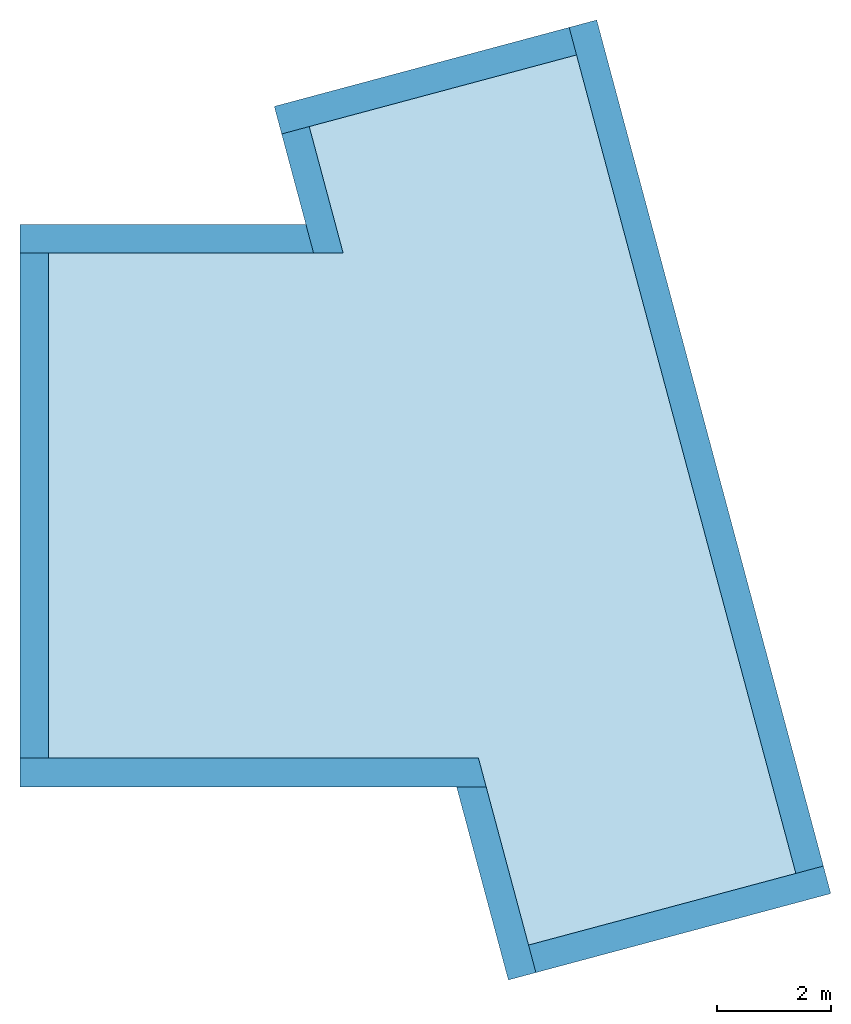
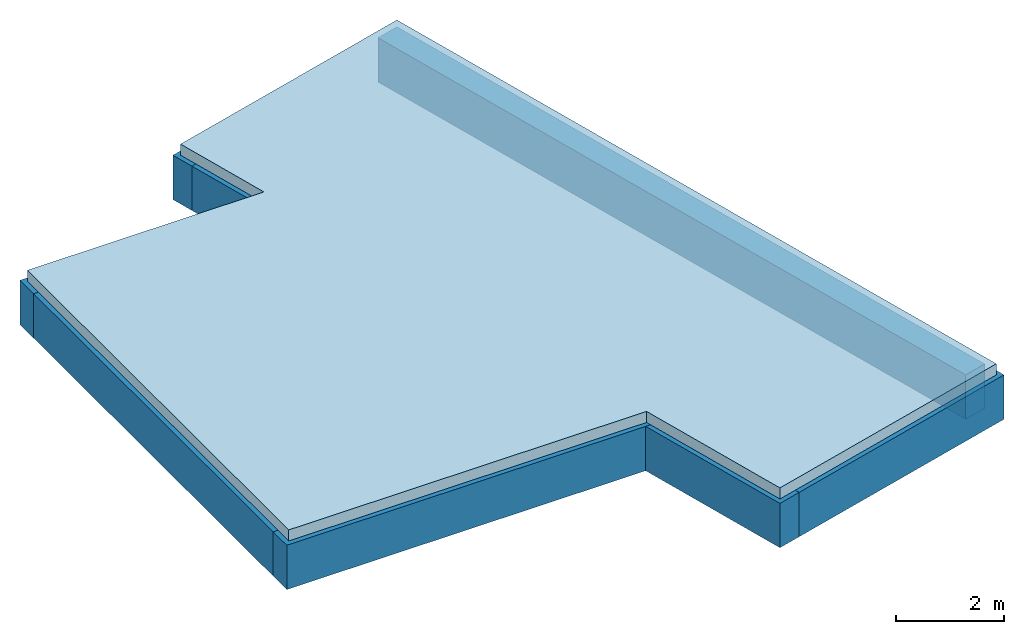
# One storey: 8 footings, 1 slab.
"""IFC4 building model written with IfcOpenShell, lengths in metres."""

from ifc_helpers import new_model, entity, si_unit, converted_unit, derived_unit, frame, frame_2d, origin, origin_with_axes, place, context, subcontext, project, spatial, polyline, rectangle, outline, extrude, faceted_brep, material, element, save


model = new_model("IFC4")

# Units and contexts
model_context = context("Model", 3, precision=1e-05, world=origin())
body_context = subcontext(model_context, "Body", "Model", "MODEL_VIEW")
ifc_project = project(units=[si_unit("LENGTHUNIT", "METRE"), si_unit("AREAUNIT", "SQUARE_METRE"), si_unit("VOLUMEUNIT", "CUBIC_METRE"), si_unit("MASSUNIT", "GRAM", prefix="KILO"), converted_unit("PLANEANGLEUNIT", "DEGREE", entity("IfcPlaneAngleMeasure", 0.0174532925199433), si_unit("PLANEANGLEUNIT", "RADIAN"), dimensions=[0, 0, 0, 0, 0, 0, 0]), derived_unit("THERMALTRANSMITTANCEUNIT", [(si_unit("POWERUNIT", "WATT"), 1), (si_unit("THERMODYNAMICTEMPERATUREUNIT", "KELVIN"), -1), (si_unit("LENGTHUNIT", "METRE"), -2)]), derived_unit("VOLUMETRICFLOWRATEUNIT", [(si_unit("LENGTHUNIT", "METRE"), 3), (converted_unit("TIMEUNIT", "hour", entity("IfcTimeMeasure", 3600.0), si_unit("TIMEUNIT", "SECOND"), dimensions=[0, 0, 1, 0, 0, 0, 0]), -1), (si_unit("LENGTHUNIT", "METRE"), -1)])], contexts=[model_context])

# Site, building, storey
site_placement = place(None, origin())
site = spatial("IfcSite", under=ifc_project, at=site_placement, Name="Liegenschaft", CompositionType="ELEMENT")
building_placement = place(site_placement, origin())
building = spatial("IfcBuilding", under=site, at=building_placement, Name="Gebäude", CompositionType="ELEMENT")
storey_placement = place(building_placement, origin())
storey = spatial("IfcBuildingStorey", under=building, at=storey_placement, Name="Geschoss 01", CompositionType="ELEMENT", Elevation=0.0)

# Footings
ifc_material_1 = material(Name="C12/15")
footing_1_placement = place(storey_placement, frame((178.473252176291, -6.95035461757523, -1.5), z_axis=(0.0, 0.0, 1.0), x_axis=(0.965925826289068, 0.25881904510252, 0.0)))
element("IfcFooting", 1, at=footing_1_placement, inside=storey, material=ifc_material_1, Name="SFU_01", PredefinedType="STRIP_FOOTING", context=body_context, shape_type="SweptSolid", body=[
    extrude(rectangle(XDim=0.499999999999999, YDim=1.0, at=frame_2d((0.25, 0.5), x_axis=(1.0, 0.0))), frame((0.0, 0.0, 0.0), z_axis=(1.0, 0.0, 0.0), x_axis=(0.0, 1.0, 0.0)), (0.0, 0.0, 1.0), 5.34999999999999),
])
ifc_material_2 = material(Name="C12/15")
footing_2_placement = place(storey_placement, frame((183.511545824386, -5.08270981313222, -1.5), z_axis=(0.0, 0.0, 1.0), x_axis=(-0.25881904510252, 0.965925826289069, 0.0)))
element("IfcFooting", 2, at=footing_2_placement, inside=storey, material=ifc_material_2, Name="SFU_01", PredefinedType="STRIP_FOOTING", context=body_context, shape_type="SweptSolid", body=[
    extrude(rectangle(XDim=0.5, YDim=1.0, at=frame_2d((0.25, 0.5), x_axis=(1.0, 0.0))), frame((0.0, 0.0, 0.0), z_axis=(1.0, 0.0, 0.0), x_axis=(0.0, 1.0, 0.0)), (0.0, 0.0, 1.0), 15.35),
])
ifc_material_3 = material(Name="C12/15")
footing_3_placement = place(storey_placement, frame((179.055710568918, 9.61484209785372, -1.5), z_axis=(0.0, 0.0, 1.0), x_axis=(-0.965925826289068, -0.25881904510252, 0.0)))
element("IfcFooting", 3, at=footing_3_placement, inside=storey, material=ifc_material_3, Name="SFU_01", PredefinedType="STRIP_FOOTING", context=body_context, shape_type="SweptSolid", body=[
    extrude(rectangle(XDim=0.5, YDim=1.0, at=frame_2d((0.25, 0.5), x_axis=(1.0, 0.0))), frame((0.0, 0.0, 0.0), z_axis=(1.0, 0.0, 0.0), x_axis=(0.0, 1.0, 0.0)), (0.0, 0.0, 1.0), 5.34999999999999),
])
ifc_material_4 = material(Name="C12/15")
footing_4_placement = place(storey_placement, frame((169.431764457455, -3.69326912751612, -1.5)))
element("IfcFooting", 4, at=footing_4_placement, inside=storey, material=ifc_material_4, Name="SFU_01", PredefinedType="STRIP_FOOTING", context=body_context, shape_type="Brep", body=[
    faceted_brep([(0.0, 0.5, 0.0), (0.0, 0.0, 0.0), (8.16875429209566, 0.0, 0.0), (8.0347796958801, 0.500000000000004, 0.0), (0.0, 0.0, 1.0), (0.0, 0.5, 1.0), (8.0347796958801, 0.500000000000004, 1.0), (8.16875429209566, 0.0, 1.0)], [[[0, 1, 2, 3]], [[4, 5, 6, 7]], [[1, 0, 5, 4]], [[2, 1, 4, 7]], [[3, 2, 7, 6]], [[0, 3, 6, 5]]], orient=[[False], [False], [False], [False], [False], [False]]),
])
ifc_material_5 = material(Name="C12/15")
footing_5_placement = place(storey_placement, frame((169.431764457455, 5.65673087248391, -1.5), z_axis=(0.0, 0.0, 1.0), x_axis=(0.0, -1.0, 0.0)))
element("IfcFooting", 5, at=footing_5_placement, inside=storey, material=ifc_material_5, Name="SFU_01", PredefinedType="STRIP_FOOTING", context=body_context, shape_type="SweptSolid", body=[
    extrude(rectangle(XDim=0.5, YDim=1.0, at=frame_2d((0.25, 0.5), x_axis=(1.0, 0.0))), frame((0.0, 0.0, 0.0), z_axis=(1.0, 0.0, 0.0), x_axis=(0.0, 1.0, 0.0)), (0.0, 0.0, 1.0), 8.85000000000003),
])
ifc_material_6 = material(Name="C12/15")
footing_6_placement = place(storey_placement, frame((169.431764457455, 5.65673087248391, -1.5)))
element("IfcFooting", 6, at=footing_6_placement, inside=storey, material=ifc_material_6, Name="SFU_01", PredefinedType="STRIP_FOOTING", context=body_context, shape_type="Brep", body=[
    faceted_brep([(5.14579125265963, 0.0, 0.0), (5.01181665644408, 0.5, 0.0), (0.0, 0.5, 0.0), (0.0, 0.0, 0.0), (5.01181665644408, 0.5, 1.0), (5.14579125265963, 0.0, 1.0), (0.0, 0.0, 1.0), (0.0, 0.5, 1.0)], [[[0, 1, 2, 3]], [[4, 5, 6, 7]], [[1, 0, 5, 4]], [[2, 1, 4, 7]], [[3, 2, 7, 6]], [[0, 3, 6, 5]]], orient=[[False], [False], [False], [False], [False], [False]]),
])
ifc_material_7 = material(Name="C12/15")
footing_7_placement = place(storey_placement, frame((174.017416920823, 5.65673087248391, -1.5)))
element("IfcFooting", 7, at=footing_7_placement, inside=storey, material=ifc_material_7, Name="SFU_01", PredefinedType="STRIP_FOOTING", context=body_context, shape_type="Brep", body=[
    faceted_brep([(0.482962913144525, 2.21987594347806, 0.0), (0.0, 2.0904664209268, 0.0), (0.560138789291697, 0.0, 0.0), (1.07777687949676, 0.0, 0.0), (0.0, 2.0904664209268, 1.0), (0.482962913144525, 2.21987594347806, 1.0), (1.07777687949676, 0.0, 1.0), (0.560138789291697, 0.0, 1.0)], [[[0, 1, 2, 3]], [[4, 5, 6, 7]], [[1, 0, 5, 4]], [[2, 1, 4, 7]], [[3, 2, 7, 6]], [[0, 3, 6, 5]]], orient=[[False], [False], [False], [False], [False], [False]]),
])
ifc_material_8 = material(Name="C12/15")
footing_8_placement = place(storey_placement, frame((177.082880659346, -7.07976414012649, -1.5)))
element("IfcFooting", 8, at=footing_8_placement, inside=storey, material=ifc_material_8, Name="SFU_01", PredefinedType="STRIP_FOOTING", context=body_context, shape_type="Brep", body=[
    faceted_brep([(0.51763809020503, 3.38649501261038, 0.0), (0.0, 3.38649501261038, 0.0), (0.907408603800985, 0.0, 0.0), (1.39037151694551, 0.129409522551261, 0.0), (0.0, 3.38649501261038, 1.0), (0.51763809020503, 3.38649501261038, 1.0), (1.39037151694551, 0.129409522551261, 1.0), (0.907408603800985, 0.0, 1.0)], [[[0, 1, 2, 3]], [[4, 5, 6, 7]], [[1, 0, 5, 4]], [[2, 1, 4, 7]], [[3, 2, 7, 6]], [[0, 3, 6, 5]]], orient=[[False], [False], [False], [False], [False], [False]]),
])

# Slab
ifc_material_9 = material(Name="C20/25")
slab_placement = place(storey_placement, frame((169.531764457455, -6.95728965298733, -0.5)))
element("IfcSlab", 9, at=slab_placement, inside=storey, material=ifc_material_9, Name="PFU_02", PredefinedType="BASESLAB", context=body_context, shape_type="SweptSolid", body=[
    extrude(outline(polyline([(0.0, 13.0140205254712), (0.0, 3.36402052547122), (7.62784890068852, 3.36402052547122), (8.52923548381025, 0.0), (13.9867164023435, 1.46232760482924), (9.93619834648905, 16.5790667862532), (4.47871742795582, 15.1167391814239), (5.04213919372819, 13.0140205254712), (0.0, 13.0140205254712)])), origin_with_axes(), (0.0, 0.0, 1.0), 0.25),
])

save(model, "model.ifc")
